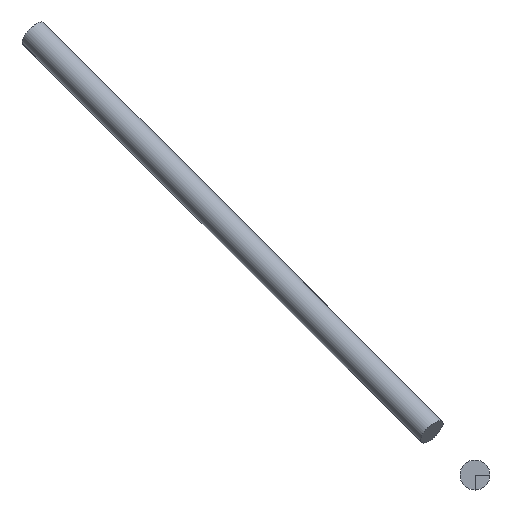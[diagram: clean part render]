
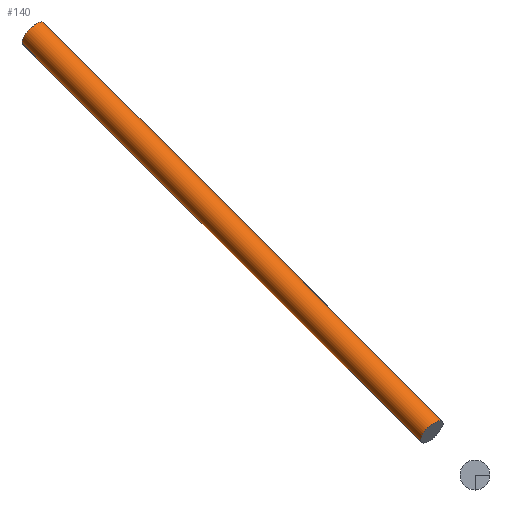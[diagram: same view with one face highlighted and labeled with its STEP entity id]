
A CAD part, front view. The second image highlights one B-rep face of the part: STEP entity #140.
In plain terms, the highlighted cylindrical face has radius 5 mm (diameter 10 mm), a full revolution.
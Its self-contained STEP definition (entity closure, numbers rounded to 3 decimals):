
#18=FACE_BOUND('',#45,.T.);
#21=CYLINDRICAL_SURFACE('',#174,5.);
#31=FACE_OUTER_BOUND('',#44,.T.);
#44=EDGE_LOOP('',(#106));
#45=EDGE_LOOP('',(#107));
#53=CIRCLE('',#173,5.);
#54=CIRCLE('',#175,5.);
#71=VERTEX_POINT('',#249);
#72=VERTEX_POINT('',#252);
#83=EDGE_CURVE('',#71,#71,#53,.T.);
#84=EDGE_CURVE('',#72,#72,#54,.T.);
#106=ORIENTED_EDGE('',*,*,#83,.T.);
#107=ORIENTED_EDGE('',*,*,#84,.T.);
#140=ADVANCED_FACE('',(#31,#18),#21,.T.);
#173=AXIS2_PLACEMENT_3D('',#250,#213,#214);
#174=AXIS2_PLACEMENT_3D('',#251,#215,#216);
#175=AXIS2_PLACEMENT_3D('',#253,#217,#218);
#213=DIRECTION('center_axis',(-0.655,0.378,0.655));
#214=DIRECTION('ref_axis',(0.716,0.586,0.378));
#215=DIRECTION('center_axis',(-0.655,0.378,0.655));
#216=DIRECTION('ref_axis',(0.716,0.586,0.378));
#217=DIRECTION('center_axis',(0.655,-0.378,-0.655));
#218=DIRECTION('ref_axis',(0.716,0.586,0.378));
#249=CARTESIAN_POINT('',(-237.44,-89.616,-152.032));
#250=CARTESIAN_POINT('Origin',(-233.858,-86.685,-150.142));
#251=CARTESIAN_POINT('Origin',(-300.305,-48.321,-83.695));
#252=CARTESIAN_POINT('',(-370.335,-12.89,-19.138));
#253=CARTESIAN_POINT('Origin',(-366.752,-9.958,-17.248));
